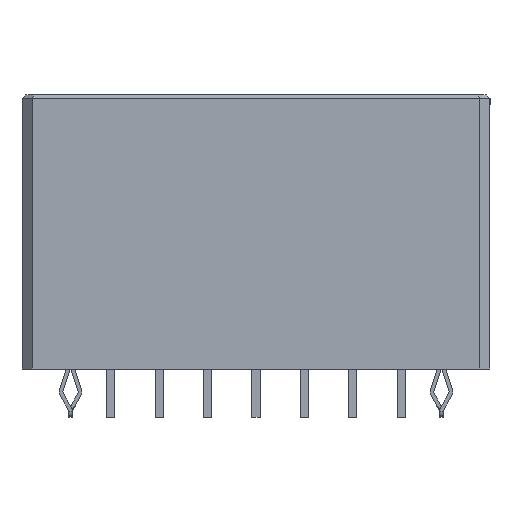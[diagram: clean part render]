
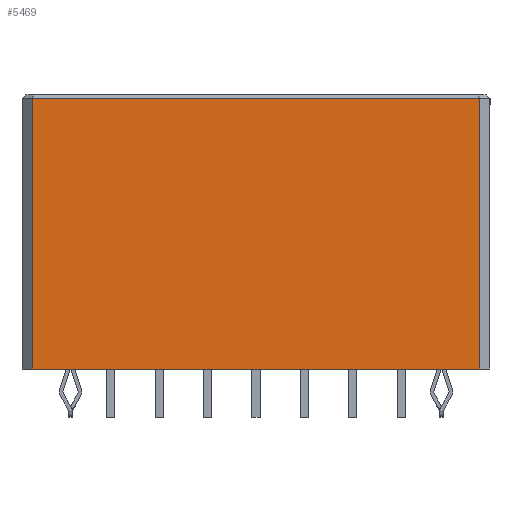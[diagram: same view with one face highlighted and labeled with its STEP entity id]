
A CAD part, front view. The second image highlights one B-rep face of the part: STEP entity #5469.
In plain terms, the highlighted planar face has unit normal (0, -1, 0).
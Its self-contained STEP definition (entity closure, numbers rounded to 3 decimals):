
#345=FACE_OUTER_BOUND('',#670,.T.);
#670=EDGE_LOOP('',(#4570,#4571,#4572,#4573));
#949=LINE('',#7741,#1662);
#1310=LINE('',#8548,#2023);
#1334=LINE('',#8596,#2047);
#1335=LINE('',#8597,#2048);
#1662=VECTOR('',#6272,1.);
#2023=VECTOR('',#6949,10.);
#2047=VECTOR('',#6975,1.);
#2048=VECTOR('',#6976,1.);
#2207=VERTEX_POINT('',#7406);
#2328=VERTEX_POINT('',#7739);
#2575=VERTEX_POINT('',#8547);
#2598=VERTEX_POINT('',#8595);
#2897=EDGE_CURVE('',#2207,#2328,#949,.T.);
#3272=EDGE_CURVE('',#2575,#2328,#1310,.T.);
#3296=EDGE_CURVE('',#2207,#2598,#1334,.T.);
#3297=EDGE_CURVE('',#2598,#2575,#1335,.T.);
#4570=ORIENTED_EDGE('',*,*,#3296,.T.);
#4571=ORIENTED_EDGE('',*,*,#3297,.T.);
#4572=ORIENTED_EDGE('',*,*,#3272,.T.);
#4573=ORIENTED_EDGE('',*,*,#2897,.F.);
#5190=PLANE('',#5805);
#5469=ADVANCED_FACE('',(#345),#5190,.T.);
#5805=AXIS2_PLACEMENT_3D('',#8594,#6973,#6974);
#6272=DIRECTION('',(0.,0.,-1.));
#6949=DIRECTION('',(1.,0.,0.));
#6973=DIRECTION('center_axis',(0.,-1.,0.));
#6974=DIRECTION('ref_axis',(1.,0.,0.));
#6975=DIRECTION('',(-1.,0.,0.));
#6976=DIRECTION('',(0.,0.,-1.));
#7406=CARTESIAN_POINT('',(4.295,-7.215,-0.3));
#7739=CARTESIAN_POINT('',(4.295,-7.215,-21.6));
#7741=CARTESIAN_POINT('',(4.295,-7.215,-10.95));
#8547=CARTESIAN_POINT('',(-30.965,-7.215,-21.6));
#8548=CARTESIAN_POINT('',(-23.598,-7.215,-21.6));
#8594=CARTESIAN_POINT('Origin',(-46.986,-7.215,-22.026));
#8595=CARTESIAN_POINT('',(-30.965,-7.215,-0.3));
#8596=CARTESIAN_POINT('',(-26.67,-7.215,-0.3));
#8597=CARTESIAN_POINT('',(-30.965,-7.215,-10.95));
